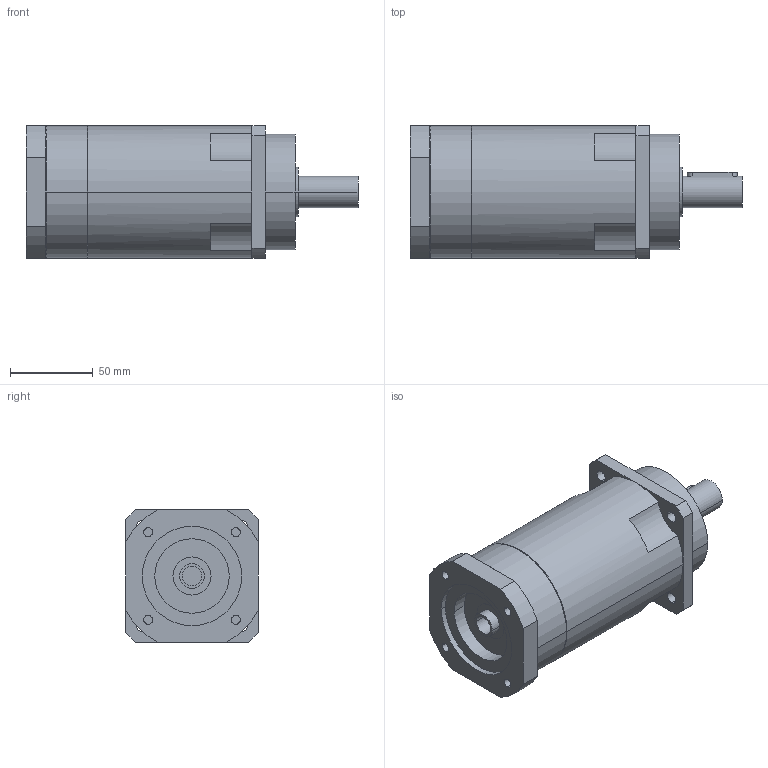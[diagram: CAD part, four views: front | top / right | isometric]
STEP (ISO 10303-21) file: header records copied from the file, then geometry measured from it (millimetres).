
FILE_DESCRIPTION(('CoCreate Modeling STEP Export'),'2;1');
FILE_NAME('GPR100_ig-48-64-80-100-120-144-180-216_19_B5_12_P03.stp','2014-08-26T11:53:50',(''),(''),'CoCreate Modeling STEP processor for AP214 (Solid Model)','CoCreate Modeling 16.00C 25-Feb-2009 (C) Parametric Technology GmbH','');
FILE_SCHEMA(('AUTOMOTIVE_DESIGN { 1 0 10303 214 1 1 1 1 }'));
Length unit declared in the file: millimetre
Products named in the file (2): GPR100_ig-48-64-80-100-120-144-180-216_19_B5_12_P03
Assembly tree (1 placements, depth 2):
  GPR100_ig-48-64-80-100-120-144-180-216_19_B5_12_P03
    GPR100_ig-48-64-80-100-120-144-180-216_19_B5_12_P03
Bounding box: 200.4 x 80 x 80 mm (x, y, z)
Volume: 790216.4 mm3; surface area: 63560.2 mm2
Topology: 1 solids, 1 shells, 105 faces, 297 edges, 203 vertices
Faces by surface type: cylinder 60, plane 39, cone 6
Entity records: 3135 total; most frequent: CARTESIAN_POINT 641, ORIENTED_EDGE 590, DIRECTION 436, EDGE_CURVE 295, VERTEX_POINT 203, AXIS2_PLACEMENT_3D 166, EDGE_LOOP 132, FACE_OUTER_BOUND 105
